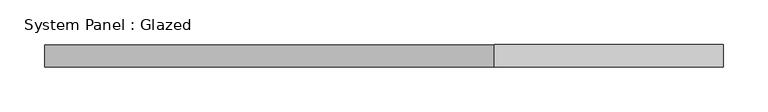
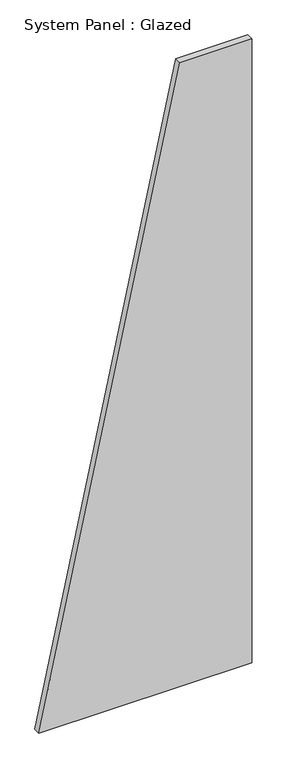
"""IFC4 building model written with IfcOpenShell, lengths in millimetres: plate geometry, System Panel : Glazed."""

from ifc_helpers import new_model, si_unit, frame, origin, place, context, project, spatial, polyline, outline, extrude, source, transform, mapped, element, save


def system_panel_glazed_f44025e2(model_context):
    return source(origin(), model_context, "Body", "SweptSolid", [
        extrude(outline(polyline([(0.0, -379.3128402), (0.0, 379.3128402), (2350.0, 379.3128402), (2350.0, 123.2132291), (0.0, -379.3128402)])), frame((0.0, -49.5, 0.0), z_axis=(0.0, 1.0, 0.0), x_axis=(0.0, 0.0, 1.0)), (0.0, 0.0, 1.0), 25.0),
    ])


if __name__ == "__main__":
    model = new_model("IFC4")
    model_context = context("Model", 3, world=origin())
    ifc_project = project(units=[si_unit("LENGTHUNIT", "METRE", prefix="MILLI")], contexts=[model_context])
    site = spatial("IfcSite", under=ifc_project)
    building = spatial("IfcBuilding", under=site)
    placement = place(None, origin())
    system_panel_glazed_shape = system_panel_glazed_f44025e2(model_context)
    element("IfcPlate", 1, ObjectType="System Panel : Glazed", at=placement, inside=building, context=model_context, shape_type="MappedRepresentation", body=[
        mapped(system_panel_glazed_shape, transform((0.0, 0.0, 0.0), x_axis=(1.0, 0.0, 0.0), y_axis=(0.0, 1.0, 0.0), z_axis=(0.0, 0.0, 1.0))),
    ])
    save(model, "model.ifc")
